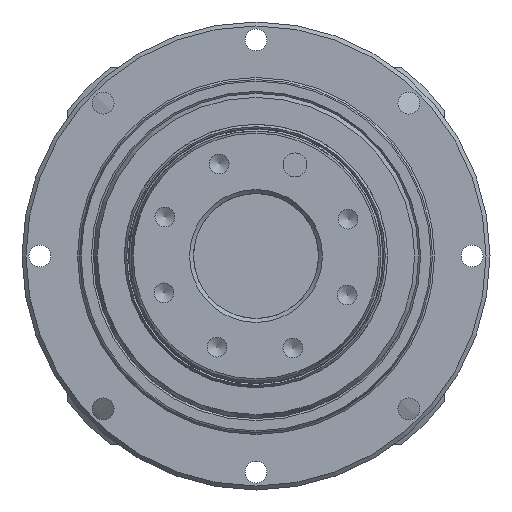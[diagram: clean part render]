
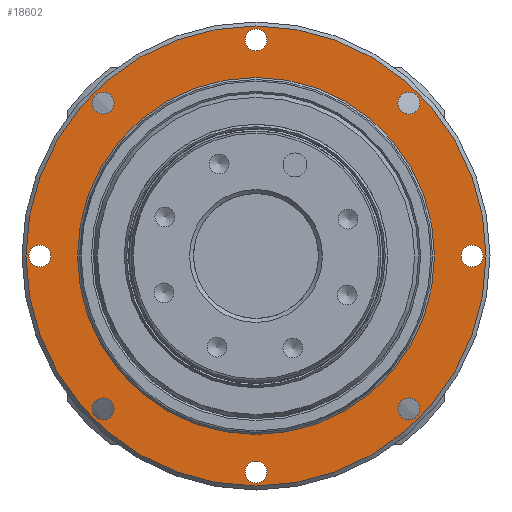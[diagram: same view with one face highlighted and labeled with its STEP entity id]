
A CAD part, front view. The second image highlights one B-rep face of the part: STEP entity #18602.
In plain terms, the highlighted planar face has unit normal (0, -1, 0).
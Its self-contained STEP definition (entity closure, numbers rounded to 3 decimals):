
#326 = CARTESIAN_POINT ( 'NONE',  ( 51.75, 24., 0. ) ) ;
#509 = FACE_BOUND ( 'NONE', #22677, .T. ) ;
#1232 = FACE_OUTER_BOUND ( 'NONE', #31326, .T. ) ;
#1675 = EDGE_CURVE ( 'NONE', #7361, #7361, #5987, .T. ) ;
#2401 = CARTESIAN_POINT ( 'NONE',  ( 38.537, 24., 38.537 ) ) ;
#3127 = DIRECTION ( 'NONE',  ( -1., 0., 0. ) ) ;
#3438 = DIRECTION ( 'NONE',  ( -1., 0., 0. ) ) ;
#3611 = DIRECTION ( 'NONE',  ( 0., 1., 0. ) ) ;
#5242 = AXIS2_PLACEMENT_3D ( 'NONE', #28331, #3611, #9261 ) ;
#5280 = DIRECTION ( 'NONE',  ( -1., 0., 0. ) ) ;
#5756 = ORIENTED_EDGE ( 'NONE', *, *, #6667, .F. ) ;
#5878 = CIRCLE ( 'NONE', #7622, 2.75 ) ;
#5976 = ORIENTED_EDGE ( 'NONE', *, *, #24472, .T. ) ;
#5987 = CIRCLE ( 'NONE', #17543, 2.75 ) ;
#6320 = FACE_BOUND ( 'NONE', #20649, .T. ) ;
#6330 = CARTESIAN_POINT ( 'NONE',  ( -57.25, 24., 0. ) ) ;
#6517 = CIRCLE ( 'NONE', #26679, 2.75 ) ;
#6667 = EDGE_CURVE ( 'NONE', #10782, #10782, #6819, .T. ) ;
#6819 = CIRCLE ( 'NONE', #31576, 45. ) ;
#7361 = VERTEX_POINT ( 'NONE', #29723 ) ;
#7622 = AXIS2_PLACEMENT_3D ( 'NONE', #31419, #34482, #3438 ) ;
#7806 = CARTESIAN_POINT ( 'NONE',  ( 0., 24., 0. ) ) ;
#8056 = CARTESIAN_POINT ( 'NONE',  ( -45., 24., 0. ) ) ;
#8247 = ORIENTED_EDGE ( 'NONE', *, *, #29230, .T. ) ;
#8405 = CARTESIAN_POINT ( 'NONE',  ( -54.5, 24., 0. ) ) ;
#8878 = FACE_BOUND ( 'NONE', #16011, .T. ) ;
#9261 = DIRECTION ( 'NONE',  ( -1., 0., 0. ) ) ;
#9389 = DIRECTION ( 'NONE',  ( -1., 0., 0. ) ) ;
#9752 = ORIENTED_EDGE ( 'NONE', *, *, #31527, .T. ) ;
#10051 = AXIS2_PLACEMENT_3D ( 'NONE', #22765, #17536, #33745 ) ;
#10258 = CIRCLE ( 'NONE', #13714, 2.75 ) ;
#10754 = DIRECTION ( 'NONE',  ( -1., 0., 0. ) ) ;
#10782 = VERTEX_POINT ( 'NONE', #8056 ) ;
#10806 = EDGE_CURVE ( 'NONE', #13924, #13924, #32335, .T. ) ;
#11993 = EDGE_CURVE ( 'NONE', #15130, #15130, #30069, .T. ) ;
#12136 = FACE_BOUND ( 'NONE', #31351, .T. ) ;
#12367 = VERTEX_POINT ( 'NONE', #23361 ) ;
#12416 = AXIS2_PLACEMENT_3D ( 'NONE', #8405, #19410, #25165 ) ;
#12470 = EDGE_CURVE ( 'NONE', #13134, #13134, #5878, .T. ) ;
#12785 = EDGE_CURVE ( 'NONE', #35622, #35622, #29498, .T. ) ;
#13043 = ORIENTED_EDGE ( 'NONE', *, *, #10806, .T. ) ;
#13134 = VERTEX_POINT ( 'NONE', #24121 ) ;
#13467 = DIRECTION ( 'NONE',  ( 0., 1., 0. ) ) ;
#13714 = AXIS2_PLACEMENT_3D ( 'NONE', #33355, #19674, #30998 ) ;
#13837 = CARTESIAN_POINT ( 'NONE',  ( -38.537, 24., 38.537 ) ) ;
#13924 = VERTEX_POINT ( 'NONE', #326 ) ;
#13929 = DIRECTION ( 'NONE',  ( -1., 0., 0. ) ) ;
#14368 = ORIENTED_EDGE ( 'NONE', *, *, #12785, .F. ) ;
#14674 = CARTESIAN_POINT ( 'NONE',  ( -41.287, 24., 38.537 ) ) ;
#15130 = VERTEX_POINT ( 'NONE', #34753 ) ;
#16011 = EDGE_LOOP ( 'NONE', ( #30987 ) ) ;
#16122 = DIRECTION ( 'NONE',  ( -1., 0., 0. ) ) ;
#16364 = CARTESIAN_POINT ( 'NONE',  ( -58., 24., 0. ) ) ;
#16985 = DIRECTION ( 'NONE',  ( 0., 1., 0. ) ) ;
#17527 = EDGE_CURVE ( 'NONE', #33223, #33223, #6517, .T. ) ;
#17536 = DIRECTION ( 'NONE',  ( 0., 1., 0. ) ) ;
#17543 = AXIS2_PLACEMENT_3D ( 'NONE', #2401, #21774, #5280 ) ;
#17615 = ORIENTED_EDGE ( 'NONE', *, *, #11993, .T. ) ;
#17960 = ORIENTED_EDGE ( 'NONE', *, *, #1675, .T. ) ;
#18602 = ADVANCED_FACE ( 'NONE', ( #19703, #509, #25453, #20071, #8878, #6320, #30662, #12136, #22584, #1232 ), #33924, .F. ) ;
#18621 = CARTESIAN_POINT ( 'NONE',  ( 54.5, 24., 0. ) ) ;
#18735 = CARTESIAN_POINT ( 'NONE',  ( -2.75, 24., -54.5 ) ) ;
#19103 = AXIS2_PLACEMENT_3D ( 'NONE', #18621, #16985, #13929 ) ;
#19154 = AXIS2_PLACEMENT_3D ( 'NONE', #35427, #13467, #10754 ) ;
#19410 = DIRECTION ( 'NONE',  ( 0., 1., 0. ) ) ;
#19674 = DIRECTION ( 'NONE',  ( 0., 1., 0. ) ) ;
#19703 = FACE_BOUND ( 'NONE', #21959, .T. ) ;
#20071 = FACE_BOUND ( 'NONE', #32056, .T. ) ;
#20649 = EDGE_LOOP ( 'NONE', ( #8247 ) ) ;
#21774 = DIRECTION ( 'NONE',  ( 0., 1., 0. ) ) ;
#21959 = EDGE_LOOP ( 'NONE', ( #5756 ) ) ;
#22584 = FACE_BOUND ( 'NONE', #34858, .T. ) ;
#22677 = EDGE_LOOP ( 'NONE', ( #5976 ) ) ;
#22765 = CARTESIAN_POINT ( 'NONE',  ( 59., 24., 0. ) ) ;
#23233 = AXIS2_PLACEMENT_3D ( 'NONE', #7806, #29791, #16122 ) ;
#23361 = CARTESIAN_POINT ( 'NONE',  ( -2.75, 24., 54.5 ) ) ;
#23987 = EDGE_LOOP ( 'NONE', ( #17960 ) ) ;
#24121 = CARTESIAN_POINT ( 'NONE',  ( 35.787, 24., -38.537 ) ) ;
#24472 = EDGE_CURVE ( 'NONE', #35120, #35120, #24889, .T. ) ;
#24889 = CIRCLE ( 'NONE', #5242, 2.75 ) ;
#25165 = DIRECTION ( 'NONE',  ( -1., 0., 0. ) ) ;
#25453 = FACE_BOUND ( 'NONE', #27171, .T. ) ;
#25961 = DIRECTION ( 'NONE',  ( 0., -1., 0. ) ) ;
#26679 = AXIS2_PLACEMENT_3D ( 'NONE', #13837, #33103, #3127 ) ;
#27171 = EDGE_LOOP ( 'NONE', ( #17615 ) ) ;
#28331 = CARTESIAN_POINT ( 'NONE',  ( 0., 24., -54.5 ) ) ;
#28491 = CIRCLE ( 'NONE', #12416, 2.75 ) ;
#29230 = EDGE_CURVE ( 'NONE', #12367, #12367, #10258, .T. ) ;
#29498 = CIRCLE ( 'NONE', #23233, 58. ) ;
#29723 = CARTESIAN_POINT ( 'NONE',  ( 35.787, 24., 38.537 ) ) ;
#29791 = DIRECTION ( 'NONE',  ( 0., 1., 0. ) ) ;
#29821 = ORIENTED_EDGE ( 'NONE', *, *, #12470, .T. ) ;
#30069 = CIRCLE ( 'NONE', #19154, 2.75 ) ;
#30662 = FACE_BOUND ( 'NONE', #23987, .T. ) ;
#30671 = VERTEX_POINT ( 'NONE', #6330 ) ;
#30987 = ORIENTED_EDGE ( 'NONE', *, *, #17527, .T. ) ;
#30998 = DIRECTION ( 'NONE',  ( -1., 0., 0. ) ) ;
#31326 = EDGE_LOOP ( 'NONE', ( #14368 ) ) ;
#31351 = EDGE_LOOP ( 'NONE', ( #13043 ) ) ;
#31419 = CARTESIAN_POINT ( 'NONE',  ( 38.537, 24., -38.537 ) ) ;
#31527 = EDGE_CURVE ( 'NONE', #30671, #30671, #28491, .T. ) ;
#31576 = AXIS2_PLACEMENT_3D ( 'NONE', #34075, #25961, #9389 ) ;
#32056 = EDGE_LOOP ( 'NONE', ( #9752 ) ) ;
#32335 = CIRCLE ( 'NONE', #19103, 2.75 ) ;
#33103 = DIRECTION ( 'NONE',  ( 0., 1., 0. ) ) ;
#33223 = VERTEX_POINT ( 'NONE', #14674 ) ;
#33355 = CARTESIAN_POINT ( 'NONE',  ( 0., 24., 54.5 ) ) ;
#33745 = DIRECTION ( 'NONE',  ( -1., 0., 0. ) ) ;
#33924 = PLANE ( 'NONE',  #10051 ) ;
#34075 = CARTESIAN_POINT ( 'NONE',  ( 0., 24., 0. ) ) ;
#34482 = DIRECTION ( 'NONE',  ( 0., 1., 0. ) ) ;
#34753 = CARTESIAN_POINT ( 'NONE',  ( -41.287, 24., -38.537 ) ) ;
#34858 = EDGE_LOOP ( 'NONE', ( #29821 ) ) ;
#35120 = VERTEX_POINT ( 'NONE', #18735 ) ;
#35427 = CARTESIAN_POINT ( 'NONE',  ( -38.537, 24., -38.537 ) ) ;
#35622 = VERTEX_POINT ( 'NONE', #16364 ) ;
